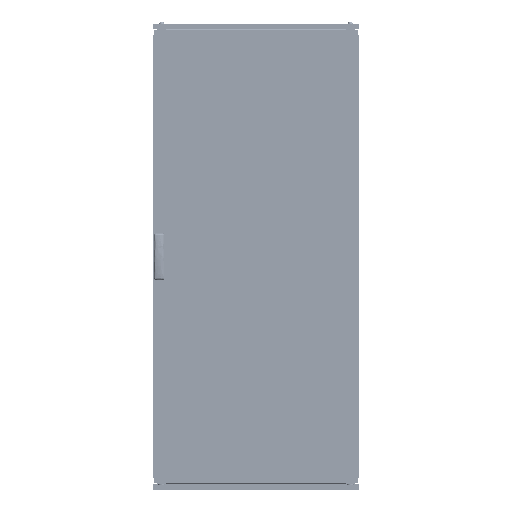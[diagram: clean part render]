
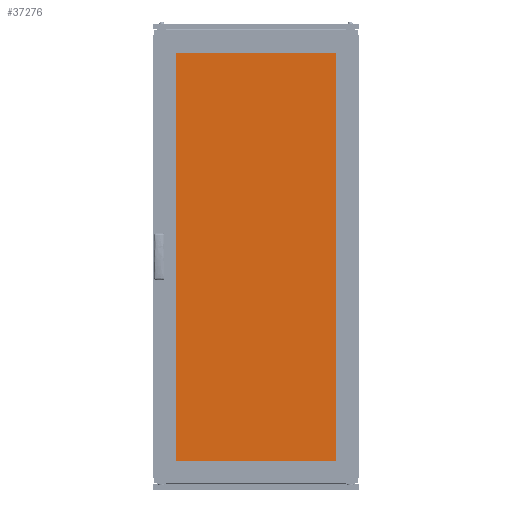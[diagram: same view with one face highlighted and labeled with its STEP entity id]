
A CAD part, top view. The second image highlights one B-rep face of the part: STEP entity #37276.
In plain terms, the highlighted planar face has unit normal (0, 0, 1).
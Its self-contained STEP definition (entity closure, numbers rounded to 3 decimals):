
#5891 = DIRECTION ( 'NONE',  ( 0., 1., 0. ) ) ;
#14889 = ORIENTED_EDGE ( 'NONE', *, *, #137262, .T. ) ;
#20439 = CARTESIAN_POINT ( 'NONE',  ( -330., 810., 5. ) ) ;
#24449 = PLANE ( 'NONE',  #32187 ) ;
#29389 = EDGE_CURVE ( 'NONE', #176391, #83179, #153991, .T. ) ;
#32187 = AXIS2_PLACEMENT_3D ( 'NONE', #59984, #105490, #40624 ) ;
#37276 = ADVANCED_FACE ( 'NONE', ( #75170 ), #24449, .F. ) ;
#39016 = EDGE_CURVE ( 'NONE', #173625, #176391, #125173, .T. ) ;
#39239 = CARTESIAN_POINT ( 'NONE',  ( 330., 810., 5. ) ) ;
#40624 = DIRECTION ( 'NONE',  ( -1., 0., 0. ) ) ;
#42176 = VECTOR ( 'NONE', #159724, 1000. ) ;
#59984 = CARTESIAN_POINT ( 'NONE',  ( 0., 0., 5. ) ) ;
#62157 = EDGE_CURVE ( 'NONE', #170152, #173625, #145065, .T. ) ;
#67240 = CARTESIAN_POINT ( 'NONE',  ( 330., -810., 5. ) ) ;
#71415 = LINE ( 'NONE', #121188, #194387 ) ;
#71793 = CARTESIAN_POINT ( 'NONE',  ( 330., -810., 5. ) ) ;
#74424 = VECTOR ( 'NONE', #5891, 1000. ) ;
#75170 = FACE_OUTER_BOUND ( 'NONE', #75600, .T. ) ;
#75600 = EDGE_LOOP ( 'NONE', ( #202437, #14889, #129322, #123090 ) ) ;
#81216 = DIRECTION ( 'NONE',  ( 0., -1., 0. ) ) ;
#83179 = VERTEX_POINT ( 'NONE', #39239 ) ;
#85533 = CARTESIAN_POINT ( 'NONE',  ( -330., -810., 5. ) ) ;
#105490 = DIRECTION ( 'NONE',  ( 0., 0., -1. ) ) ;
#121188 = CARTESIAN_POINT ( 'NONE',  ( -330., 810., 5. ) ) ;
#123090 = ORIENTED_EDGE ( 'NONE', *, *, #39016, .T. ) ;
#125173 = LINE ( 'NONE', #208323, #42176 ) ;
#129322 = ORIENTED_EDGE ( 'NONE', *, *, #62157, .T. ) ;
#137262 = EDGE_CURVE ( 'NONE', #83179, #170152, #71415, .T. ) ;
#145065 = LINE ( 'NONE', #161315, #205643 ) ;
#149371 = DIRECTION ( 'NONE',  ( -1., 0., 0. ) ) ;
#153991 = LINE ( 'NONE', #71793, #74424 ) ;
#159724 = DIRECTION ( 'NONE',  ( 1., 0., 0. ) ) ;
#161315 = CARTESIAN_POINT ( 'NONE',  ( -330., -810., 5. ) ) ;
#170152 = VERTEX_POINT ( 'NONE', #20439 ) ;
#173625 = VERTEX_POINT ( 'NONE', #85533 ) ;
#176391 = VERTEX_POINT ( 'NONE', #67240 ) ;
#194387 = VECTOR ( 'NONE', #149371, 1000. ) ;
#202437 = ORIENTED_EDGE ( 'NONE', *, *, #29389, .T. ) ;
#205643 = VECTOR ( 'NONE', #81216, 1000. ) ;
#208323 = CARTESIAN_POINT ( 'NONE',  ( -330., -810., 5. ) ) ;
